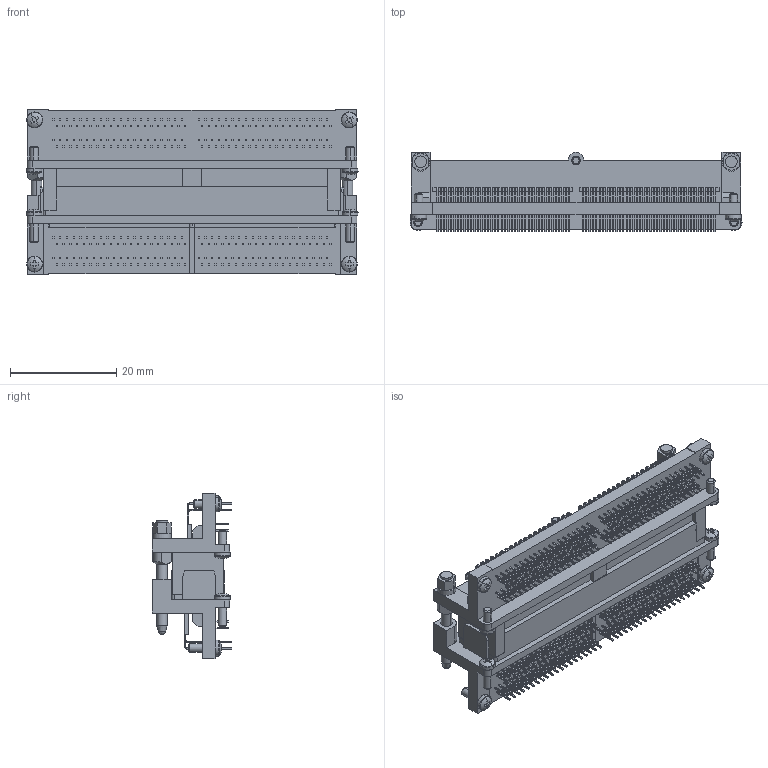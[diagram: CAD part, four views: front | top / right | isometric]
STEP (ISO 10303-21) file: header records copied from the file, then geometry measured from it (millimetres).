
FILE_DESCRIPTION (( 'STEP AP203' ), '1' );
FILE_NAME ('30046-160T-FC + 30047-160T-FC MATING STEP R2R1 ALL.STEP', '2015-02-13T05:02:21', ( '' ), ( '' ), 'SwSTEP 2.0', 'SolidWorks 2012', '' );
FILE_SCHEMA (( 'CONFIG_CONTROL_DESIGN' ));
Length unit declared in the file: millimetre
Products named in the file (1): 30046-160T-FC + 30047-160T-FC MATING STEP R2R1 ALL
Bounding box: 62.4 x 14.86 x 31.18 mm (x, y, z)
Volume: 10381.8 mm3; surface area: 10607.2 mm2
Topology: 1 solids, 1 shells, 3812 faces, 11012 edges, 7304 vertices
Faces by surface type: plane 3150, cylinder 590, torus 40, cone 28, sphere 4
Entity records: 125245 total; most frequent: CARTESIAN_POINT 23037, ORIENTED_EDGE 22024, DIRECTION 19710, EDGE_CURVE 11012, VECTOR 9572, LINE 9572, VERTEX_POINT 7304, AXIS2_PLACEMENT_3D 5069
